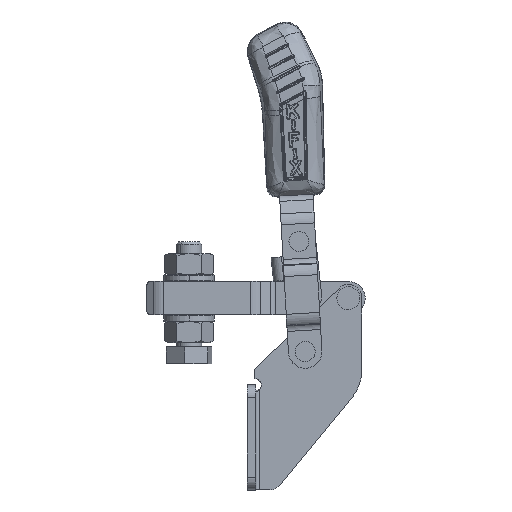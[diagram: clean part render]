
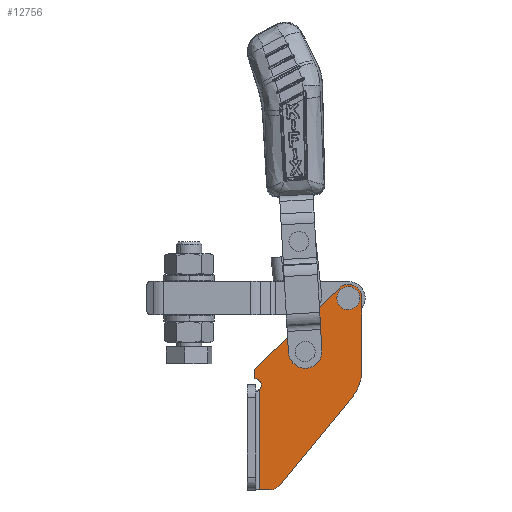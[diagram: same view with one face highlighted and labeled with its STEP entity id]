
A CAD part, top view. The second image highlights one B-rep face of the part: STEP entity #12756.
In plain terms, the highlighted planar face has unit normal (0, 0, 1).
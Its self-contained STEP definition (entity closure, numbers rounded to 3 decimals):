
#283 = AXIS2_PLACEMENT_3D ( 'NONE', #14711, #3874, #22839 ) ;
#516 = VECTOR ( 'NONE', #28075, 1000. ) ;
#596 = DIRECTION ( 'NONE',  ( 1., 0., 0. ) ) ;
#927 = DIRECTION ( 'NONE',  ( 0., 0., 1. ) ) ;
#1317 = FACE_OUTER_BOUND ( 'NONE', #34916, .T. ) ;
#1900 = CIRCLE ( 'NONE', #8210, 3. ) ;
#2176 = ORIENTED_EDGE ( 'NONE', *, *, #11164, .T. ) ;
#2422 = ORIENTED_EDGE ( 'NONE', *, *, #10472, .T. ) ;
#3290 = EDGE_CURVE ( 'NONE', #6898, #14480, #3725, .T. ) ;
#3328 = EDGE_CURVE ( 'NONE', #22265, #33214, #4587, .T. ) ;
#3619 = LINE ( 'NONE', #30532, #31629 ) ;
#3725 = CIRCLE ( 'NONE', #12811, 1.6 ) ;
#3741 = DIRECTION ( 'NONE',  ( 0., 0., 1. ) ) ;
#3874 = DIRECTION ( 'NONE',  ( 0., 0., 1. ) ) ;
#4587 = CIRCLE ( 'NONE', #18254, 1.6 ) ;
#4721 = CIRCLE ( 'NONE', #18591, 1.6 ) ;
#5068 = CIRCLE ( 'NONE', #8869, 3.199 ) ;
#5113 = EDGE_CURVE ( 'NONE', #23632, #27665, #3619, .T. ) ;
#5160 = VECTOR ( 'NONE', #12094, 1000. ) ;
#5193 = ORIENTED_EDGE ( 'NONE', *, *, #7656, .T. ) ;
#5519 = ORIENTED_EDGE ( 'NONE', *, *, #18629, .T. ) ;
#6100 = CARTESIAN_POINT ( 'NONE',  ( 36.707, 33.226, 0. ) ) ;
#6182 = VERTEX_POINT ( 'NONE', #9006 ) ;
#6349 = CARTESIAN_POINT ( 'NONE',  ( 16.393, -9.5, 0. ) ) ;
#6426 = LINE ( 'NONE', #24503, #19977 ) ;
#6506 = DIRECTION ( 'NONE',  ( 0., 1., 0. ) ) ;
#6629 = CIRCLE ( 'NONE', #28549, 1.5 ) ;
#6718 = EDGE_LOOP ( 'NONE', ( #31942, #30799 ) ) ;
#6826 = VERTEX_POINT ( 'NONE', #26825 ) ;
#6898 = VERTEX_POINT ( 'NONE', #7421 ) ;
#7421 = CARTESIAN_POINT ( 'NONE',  ( 26.385, 20.497, 0. ) ) ;
#7656 = EDGE_CURVE ( 'NONE', #33664, #6826, #15853, .T. ) ;
#7685 = CARTESIAN_POINT ( 'NONE',  ( 18.709, -11.407, 0. ) ) ;
#8210 = AXIS2_PLACEMENT_3D ( 'NONE', #6349, #25297, #9064 ) ;
#8437 = CARTESIAN_POINT ( 'NONE',  ( 35.105, 33.293, 0. ) ) ;
#8442 = CARTESIAN_POINT ( 'NONE',  ( 12.809, 14., 0. ) ) ;
#8869 = AXIS2_PLACEMENT_3D ( 'NONE', #8437, #27373, #11162 ) ;
#9006 = CARTESIAN_POINT ( 'NONE',  ( 13.971, -12.5, 0. ) ) ;
#9064 = DIRECTION ( 'NONE',  ( 1., 0., 0. ) ) ;
#9352 = CARTESIAN_POINT ( 'NONE',  ( 16.393, -12.5, 0. ) ) ;
#9378 = CARTESIAN_POINT ( 'NONE',  ( 24.785, 20.497, 0. ) ) ;
#9564 = ORIENTED_EDGE ( 'NONE', *, *, #24166, .T. ) ;
#9696 = EDGE_CURVE ( 'NONE', #6182, #17439, #16586, .T. ) ;
#9953 = VECTOR ( 'NONE', #24630, 1000. ) ;
#10472 = EDGE_CURVE ( 'NONE', #33865, #23632, #5068, .T. ) ;
#10740 = AXIS2_PLACEMENT_3D ( 'NONE', #15574, #34500, #18270 ) ;
#11162 = DIRECTION ( 'NONE',  ( 1., 0., 0. ) ) ;
#11164 = EDGE_CURVE ( 'NONE', #6826, #18628, #19438, .T. ) ;
#11947 = CARTESIAN_POINT ( 'NONE',  ( 13.971, 33.293, 0. ) ) ;
#12094 = DIRECTION ( 'NONE',  ( 1., 0., 0. ) ) ;
#12112 = DIRECTION ( 'NONE',  ( 1., 0., 0. ) ) ;
#12352 = DIRECTION ( 'NONE',  ( 0., 0., 1. ) ) ;
#12575 = ORIENTED_EDGE ( 'NONE', *, *, #23814, .T. ) ;
#12713 = CARTESIAN_POINT ( 'NONE',  ( 23.185, 20.497, 0. ) ) ;
#12756 = ADVANCED_FACE ( 'NONE', ( #1317, #15794, #14954 ), #25453, .T. ) ;
#12811 = AXIS2_PLACEMENT_3D ( 'NONE', #9378, #28308, #12112 ) ;
#13884 = VERTEX_POINT ( 'NONE', #8442 ) ;
#14146 = ORIENTED_EDGE ( 'NONE', *, *, #9696, .F. ) ;
#14159 = CIRCLE ( 'NONE', #10740, 1.6 ) ;
#14480 = VERTEX_POINT ( 'NONE', #12713 ) ;
#14711 = CARTESIAN_POINT ( 'NONE',  ( 35.105, 33.293, 0. ) ) ;
#14721 = CIRCLE ( 'NONE', #26184, 1.5 ) ;
#14954 = FACE_BOUND ( 'NONE', #6718, .T. ) ;
#15162 = ORIENTED_EDGE ( 'NONE', *, *, #31749, .T. ) ;
#15457 = CARTESIAN_POINT ( 'NONE',  ( 14.309, 12.5, 0. ) ) ;
#15574 = CARTESIAN_POINT ( 'NONE',  ( 24.785, 20.497, 0. ) ) ;
#15695 = CARTESIAN_POINT ( 'NONE',  ( 12.808, 16.254, 0. ) ) ;
#15756 = VECTOR ( 'NONE', #6506, 1000. ) ;
#15794 = FACE_BOUND ( 'NONE', #29998, .T. ) ;
#15823 = ORIENTED_EDGE ( 'NONE', *, *, #3290, .F. ) ;
#15837 = DIRECTION ( 'NONE',  ( 0., 0., 1. ) ) ;
#15853 = LINE ( 'NONE', #33442, #516 ) ;
#16586 = LINE ( 'NONE', #11947, #15756 ) ;
#16823 = CARTESIAN_POINT ( 'NONE',  ( 38.304, 33.293, 0. ) ) ;
#16879 = DIRECTION ( 'NONE',  ( 0., 0., 1. ) ) ;
#17178 = DIRECTION ( 'NONE',  ( -0.72, -0.694, 0. ) ) ;
#17208 = CARTESIAN_POINT ( 'NONE',  ( 28.304, 15.972, 0. ) ) ;
#17439 = VERTEX_POINT ( 'NONE', #26956 ) ;
#18254 = AXIS2_PLACEMENT_3D ( 'NONE', #28544, #12352, #31313 ) ;
#18270 = DIRECTION ( 'NONE',  ( 1., 0., 0. ) ) ;
#18513 = CARTESIAN_POINT ( 'NONE',  ( 32.886, 35.597, 0. ) ) ;
#18591 = AXIS2_PLACEMENT_3D ( 'NONE', #19979, #3741, #22710 ) ;
#18628 = VERTEX_POINT ( 'NONE', #32707 ) ;
#18629 = EDGE_CURVE ( 'NONE', #27665, #13884, #24355, .T. ) ;
#19438 = CIRCLE ( 'NONE', #29315, 10. ) ;
#19896 = DIRECTION ( 'NONE',  ( 1., 0., 0. ) ) ;
#19908 = EDGE_CURVE ( 'NONE', #14480, #6898, #14159, .T. ) ;
#19977 = VECTOR ( 'NONE', #27185, 1000. ) ;
#19979 = CARTESIAN_POINT ( 'NONE',  ( 35.107, 33.226, 0. ) ) ;
#20271 = ORIENTED_EDGE ( 'NONE', *, *, #32118, .F. ) ;
#20940 = VERTEX_POINT ( 'NONE', #21044 ) ;
#21044 = CARTESIAN_POINT ( 'NONE',  ( 16.393, -12.5, 0. ) ) ;
#22265 = VERTEX_POINT ( 'NONE', #26311 ) ;
#22710 = DIRECTION ( 'NONE',  ( 1., 0., 0. ) ) ;
#22839 = DIRECTION ( 'NONE',  ( 1., 0., 0. ) ) ;
#23135 = ORIENTED_EDGE ( 'NONE', *, *, #19908, .F. ) ;
#23632 = VERTEX_POINT ( 'NONE', #18513 ) ;
#23814 = EDGE_CURVE ( 'NONE', #6182, #20940, #26762, .T. ) ;
#24166 = EDGE_CURVE ( 'NONE', #18628, #33865, #6426, .T. ) ;
#24266 = EDGE_CURVE ( 'NONE', #33214, #22265, #4721, .T. ) ;
#24355 = LINE ( 'NONE', #29827, #9953 ) ;
#24503 = CARTESIAN_POINT ( 'NONE',  ( 38.304, 15.972, 0. ) ) ;
#24630 = DIRECTION ( 'NONE',  ( 0., -1., 0. ) ) ;
#25297 = DIRECTION ( 'NONE',  ( 0., 0., 1. ) ) ;
#25453 = PLANE ( 'NONE',  #283 ) ;
#25529 = VERTEX_POINT ( 'NONE', #15457 ) ;
#26184 = AXIS2_PLACEMENT_3D ( 'NONE', #33081, #16879, #596 ) ;
#26311 = CARTESIAN_POINT ( 'NONE',  ( 33.507, 33.226, 0. ) ) ;
#26762 = LINE ( 'NONE', #9352, #5160 ) ;
#26825 = CARTESIAN_POINT ( 'NONE',  ( 36.023, 9.614, 0. ) ) ;
#26956 = CARTESIAN_POINT ( 'NONE',  ( 13.971, 11.552, 0. ) ) ;
#27185 = DIRECTION ( 'NONE',  ( 0., 1., 0. ) ) ;
#27373 = DIRECTION ( 'NONE',  ( 0., 0., 1. ) ) ;
#27477 = ORIENTED_EDGE ( 'NONE', *, *, #5113, .T. ) ;
#27665 = VERTEX_POINT ( 'NONE', #15695 ) ;
#28075 = DIRECTION ( 'NONE',  ( 0.636, 0.772, 0. ) ) ;
#28308 = DIRECTION ( 'NONE',  ( 0., 0., 1. ) ) ;
#28544 = CARTESIAN_POINT ( 'NONE',  ( 35.107, 33.226, 0. ) ) ;
#28549 = AXIS2_PLACEMENT_3D ( 'NONE', #32033, #15837, #34772 ) ;
#28658 = EDGE_CURVE ( 'NONE', #25529, #13884, #6629, .T. ) ;
#29284 = ORIENTED_EDGE ( 'NONE', *, *, #28658, .F. ) ;
#29315 = AXIS2_PLACEMENT_3D ( 'NONE', #17208, #927, #19896 ) ;
#29827 = CARTESIAN_POINT ( 'NONE',  ( 12.809, 12.5, 0. ) ) ;
#29998 = EDGE_LOOP ( 'NONE', ( #15823, #23135 ) ) ;
#30532 = CARTESIAN_POINT ( 'NONE',  ( 12.808, 16.254, 0. ) ) ;
#30799 = ORIENTED_EDGE ( 'NONE', *, *, #3328, .F. ) ;
#31313 = DIRECTION ( 'NONE',  ( 1., 0., 0. ) ) ;
#31629 = VECTOR ( 'NONE', #17178, 1000. ) ;
#31749 = EDGE_CURVE ( 'NONE', #20940, #33664, #1900, .T. ) ;
#31942 = ORIENTED_EDGE ( 'NONE', *, *, #24266, .F. ) ;
#32033 = CARTESIAN_POINT ( 'NONE',  ( 12.809, 12.5, 0. ) ) ;
#32118 = EDGE_CURVE ( 'NONE', #17439, #25529, #14721, .T. ) ;
#32707 = CARTESIAN_POINT ( 'NONE',  ( 38.304, 15.972, 0. ) ) ;
#33081 = CARTESIAN_POINT ( 'NONE',  ( 12.809, 12.5, 0. ) ) ;
#33214 = VERTEX_POINT ( 'NONE', #6100 ) ;
#33442 = CARTESIAN_POINT ( 'NONE',  ( 18.709, -11.407, 0. ) ) ;
#33664 = VERTEX_POINT ( 'NONE', #7685 ) ;
#33865 = VERTEX_POINT ( 'NONE', #16823 ) ;
#34500 = DIRECTION ( 'NONE',  ( 0., 0., 1. ) ) ;
#34772 = DIRECTION ( 'NONE',  ( 1., 0., 0. ) ) ;
#34916 = EDGE_LOOP ( 'NONE', ( #14146, #12575, #15162, #5193, #2176, #9564, #2422, #27477, #5519, #29284, #20271 ) ) ;
